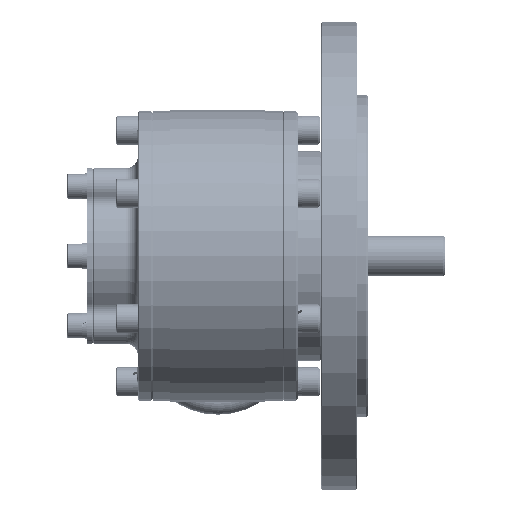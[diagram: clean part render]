
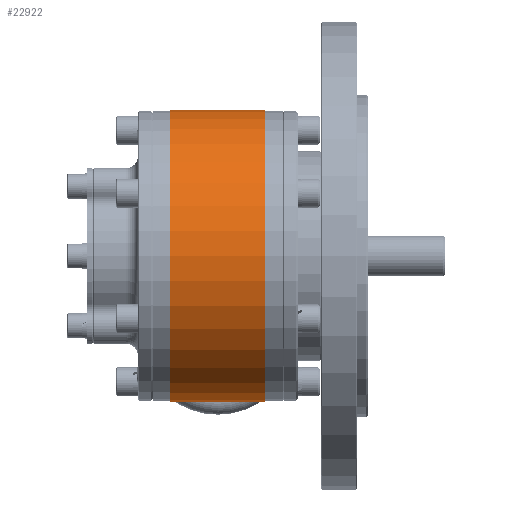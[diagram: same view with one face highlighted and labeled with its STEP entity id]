
A CAD part, front view. The second image highlights one B-rep face of the part: STEP entity #22922.
In plain terms, the highlighted cylindrical face has radius 50 mm (diameter 100 mm), a partial arc.
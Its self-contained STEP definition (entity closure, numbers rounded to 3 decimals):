
#280 = VECTOR ( 'NONE', #64207, 1000. ) ;
#617 = DIRECTION ( 'NONE',  ( 1., 0., 0. ) ) ;
#12233 = VERTEX_POINT ( 'NONE', #238452 ) ;
#13010 = DIRECTION ( 'NONE',  ( -1., 0., 0. ) ) ;
#17528 = CIRCLE ( 'NONE', #236885, 50. ) ;
#22922 = ADVANCED_FACE ( 'NONE', ( #165167 ), #51107, .T. ) ;
#23794 = EDGE_CURVE ( 'NONE', #166216, #219683, #86285, .T. ) ;
#28969 = DIRECTION ( 'NONE',  ( 0., 0., 1. ) ) ;
#38900 = ORIENTED_EDGE ( 'NONE', *, *, #113094, .F. ) ;
#41529 = AXIS2_PLACEMENT_3D ( 'NONE', #58392, #617, #134647 ) ;
#42401 = LINE ( 'NONE', #101947, #280 ) ;
#47978 = LINE ( 'NONE', #197366, #170900 ) ;
#51107 = CYLINDRICAL_SURFACE ( 'NONE', #233766, 50. ) ;
#52900 = ORIENTED_EDGE ( 'NONE', *, *, #56444, .F. ) ;
#53260 = EDGE_LOOP ( 'NONE', ( #38900, #56010, #122488, #52900 ) ) ;
#56010 = ORIENTED_EDGE ( 'NONE', *, *, #23794, .F. ) ;
#56444 = EDGE_CURVE ( 'NONE', #12233, #71091, #17528, .T. ) ;
#58392 = CARTESIAN_POINT ( 'NONE',  ( 16.25, 0., 0. ) ) ;
#64207 = DIRECTION ( 'NONE',  ( -1., 0., 0. ) ) ;
#71091 = VERTEX_POINT ( 'NONE', #91042 ) ;
#83499 = DIRECTION ( 'NONE',  ( -1., 0., 0. ) ) ;
#86285 = CIRCLE ( 'NONE', #41529, 50. ) ;
#89255 = DIRECTION ( 'NONE',  ( 0., 0., 1. ) ) ;
#91042 = CARTESIAN_POINT ( 'NONE',  ( -16.25, 0., 50. ) ) ;
#101947 = CARTESIAN_POINT ( 'NONE',  ( -20.015, 0., -50. ) ) ;
#113094 = EDGE_CURVE ( 'NONE', #219683, #12233, #42401, .T. ) ;
#117125 = CARTESIAN_POINT ( 'NONE',  ( 16.25, 0., -50. ) ) ;
#122488 = ORIENTED_EDGE ( 'NONE', *, *, #139061, .T. ) ;
#125361 = CARTESIAN_POINT ( 'NONE',  ( -16.25, 0., 0. ) ) ;
#126119 = DIRECTION ( 'NONE',  ( -1., 0., 0. ) ) ;
#134647 = DIRECTION ( 'NONE',  ( 0., 0., -1. ) ) ;
#139061 = EDGE_CURVE ( 'NONE', #166216, #71091, #47978, .T. ) ;
#140446 = CARTESIAN_POINT ( 'NONE',  ( -20.015, 0., 0. ) ) ;
#163397 = CARTESIAN_POINT ( 'NONE',  ( 16.25, 0., 50. ) ) ;
#165167 = FACE_OUTER_BOUND ( 'NONE', #53260, .T. ) ;
#166216 = VERTEX_POINT ( 'NONE', #163397 ) ;
#170900 = VECTOR ( 'NONE', #126119, 1000. ) ;
#197366 = CARTESIAN_POINT ( 'NONE',  ( -20.015, 0., 50. ) ) ;
#219683 = VERTEX_POINT ( 'NONE', #117125 ) ;
#233766 = AXIS2_PLACEMENT_3D ( 'NONE', #140446, #83499, #28969 ) ;
#236885 = AXIS2_PLACEMENT_3D ( 'NONE', #125361, #13010, #89255 ) ;
#238452 = CARTESIAN_POINT ( 'NONE',  ( -16.25, 0., -50. ) ) ;
